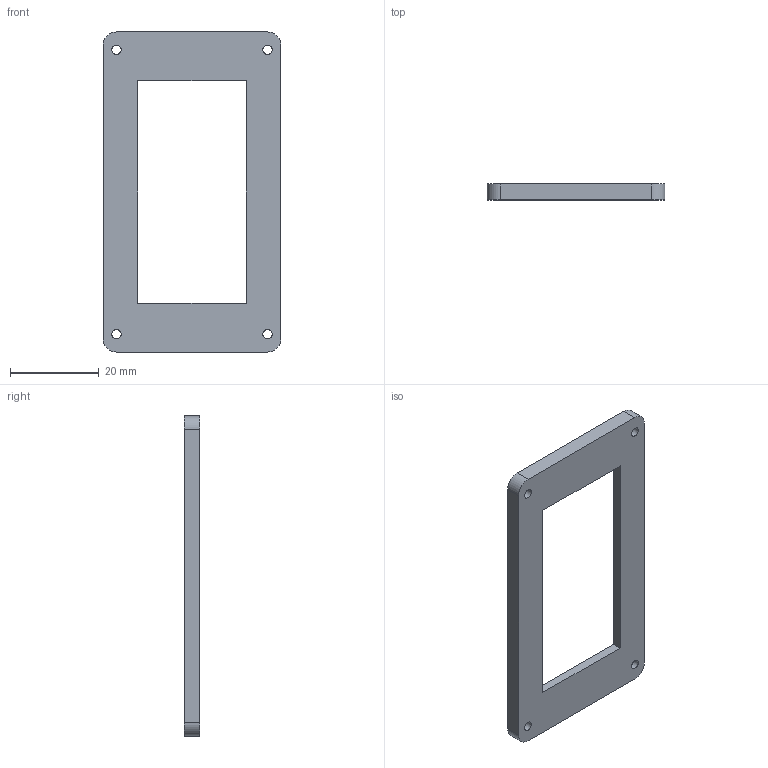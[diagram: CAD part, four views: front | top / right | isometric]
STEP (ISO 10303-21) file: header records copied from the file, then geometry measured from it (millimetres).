
FILE_DESCRIPTION(('Open CASCADE Model'),'2;1');
FILE_NAME('Open CASCADE Shape Model','2026-10-19T09:32:29',('Author'),( 'Open CASCADE'),'Open CASCADE STEP processor 7.9','Open CASCADE 7.9' ,'Unknown');
FILE_SCHEMA(('AUTOMOTIVE_DESIGN { 1 0 10303 214 1 1 1 1 }'));
Length unit declared in the file: millimetre
Products named in the file (1): Open CASCADE STEP translator 7.9 3
Bounding box: 40 x 3.5 x 72 mm (x, y, z)
Volume: 4832.3 mm3; surface area: 4719.8 mm2
Topology: 1 solids, 1 shells, 39 faces, 96 edges, 64 vertices
Faces by surface type: plane 23, cylinder 16
Full cylindrical faces by diameter (mm): 1.56 x4, 2.1 x4
Entity records: 2420 total; most frequent: CARTESIAN_POINT 466, DIRECTION 356, ORIENTED_EDGE 192, PCURVE 192, DEFINITIONAL_REPRESENTATION 192, LINE 186, VECTOR 186, EDGE_CURVE 96
